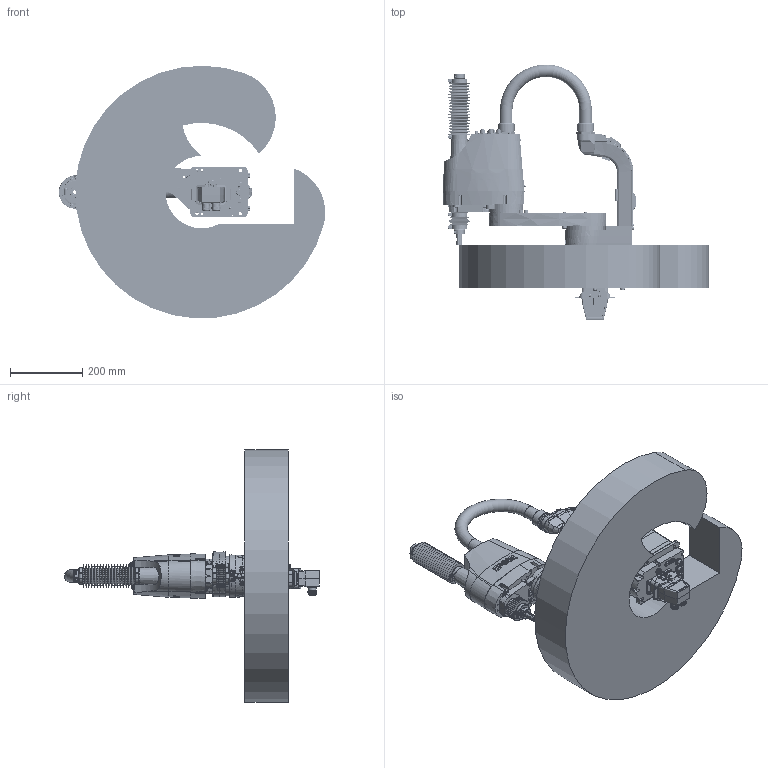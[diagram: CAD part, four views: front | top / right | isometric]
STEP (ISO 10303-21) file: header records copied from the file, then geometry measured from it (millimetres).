
FILE_DESCRIPTION( ( 'STEP AP214' ), '1' );
FILE_NAME( 'C:/Users/9607552/Desktop/GX4-A/GX4-A351CB-L-AW.stp', '2023-04-07T05:00:18', ( '' ), ( '' ), ' ', 'PARTsolutions', ' ' );
FILE_SCHEMA( ( 'AUTOMOTIVE_DESIGN { 1 0 10303 214 1 1 1 1 }' ) );
Length unit declared in the file: millimetre
Products named in the file (10): GX4-A351CB-L-AW; _A251CBbasesb; _A351S-L_J1_ARM; _A251S-a; _A351S_CONDUIT; _A251C; _A251C-long; _A251C-short; _Angle; _GX4-32_WS
Assembly tree (9 placements, depth 2):
  GX4-A351CB-L-AW
    _A251CBbasesb
    _A351S-L_J1_ARM
    _A251S-a
    _A351S_CONDUIT
    _A251C
    _A251C-long
    _A251C-short
    _Angle
    _GX4-32_WS
Bounding box: 737.83 x 706.33 x 699.31 mm (x, y, z)
Volume: 43335421.9 mm3; surface area: 1905030.6 mm2
Topology: 9 solids, 9 shells, 4219 faces, 10338 edges, 6720 vertices
Faces by surface type: plane 2452, cylinder 1165, cone 403, torus 112, bspline 86, sphere 1
Full cylindrical faces by diameter (mm): 1 x30, 1.13 x55, 1.18 x55, 2.459 x4, 2.5 x17, 3 x36, 3.2 x3, 3.242 x1, 3.3 x45, 3.4 x32, 3.5 x12, 4 x4, 4.5 x24, 4.8 x4, 4.917 x2, 5.34 x8, 5.4 x14, 5.5 x26, 5.6 x2, 5.68 x4, 6 x9, 6.7 x4, 6.8 x7, 6.98 x4, 7 x37, 7.1 x4, 7.8 x4, 8 x21, 8.08 x1, 8.2 x8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
Entity records: 158295 total; most frequent: CARTESIAN_POINT 30075, DIRECTION 18809, ORIENTED_EDGE 18572, EDGE_CURVE 9286, AXIS2_PLACEMENT_3D 7110, VERTEX_POINT 6611, EDGE_LOOP 5782, FACE_OUTER_BOUND 4894
